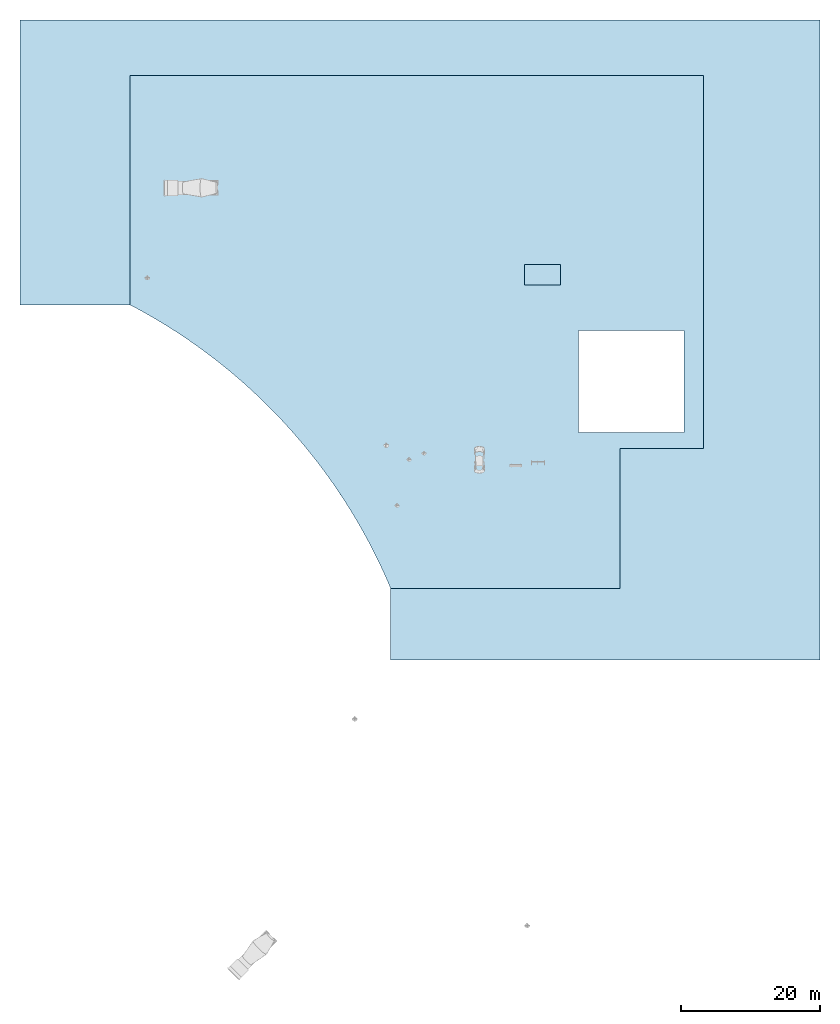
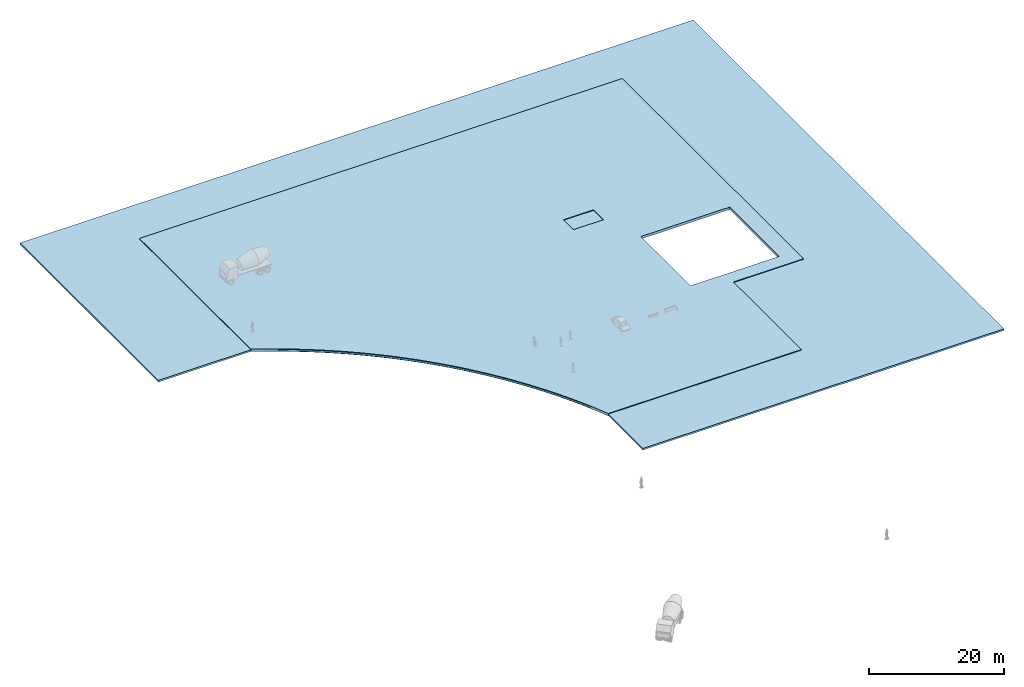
# One storey, part 1 of 6: 2 slabs, 2 openings.
"""IFC2X3 building model written with IfcOpenShell, lengths in millimetres."""

from ifc_helpers import new_model, entity, si_unit, converted_unit, derived_unit, direction, frame, frame_2d, origin, origin_2d_with_axis, place, context, subcontext, project, spatial, polyline, circle_curve, parameter, trimmed, segment, composite_curve, rectangle, outline, extrude, material, layer, layer_set, layer_usage, element, save


model = new_model("IFC2X3")

# Units and contexts
model_context = context("Model", 3, precision=0.01, world=origin(), true_north=direction((6.12303176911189e-17, 1.0)))
body_context = subcontext(model_context, "Body", "Model", "MODEL_VIEW")
ifc_project = project(units=[si_unit("LENGTHUNIT", "METRE", prefix="MILLI"), si_unit("AREAUNIT", "SQUARE_METRE"), si_unit("VOLUMEUNIT", "CUBIC_METRE"), converted_unit("PLANEANGLEUNIT", "DEGREE", entity("IfcRatioMeasure", 0.0174532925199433), si_unit("PLANEANGLEUNIT", "RADIAN"), dimensions=[0, 0, 0, 0, 0, 0, 0]), si_unit("MASSUNIT", "GRAM", prefix="KILO"), derived_unit("MASSDENSITYUNIT", [(si_unit("MASSUNIT", "GRAM", prefix="KILO"), 1), (si_unit("LENGTHUNIT", "METRE"), -3)]), si_unit("TIMEUNIT", "SECOND"), si_unit("FREQUENCYUNIT", "HERTZ"), si_unit("THERMODYNAMICTEMPERATUREUNIT", "DEGREE_CELSIUS"), derived_unit("THERMALTRANSMITTANCEUNIT", [(si_unit("MASSUNIT", "GRAM", prefix="KILO"), 1), (si_unit("THERMODYNAMICTEMPERATUREUNIT", "KELVIN"), -1), (si_unit("TIMEUNIT", "SECOND"), -3)]), derived_unit("VOLUMETRICFLOWRATEUNIT", [(si_unit("LENGTHUNIT", "METRE"), 3), (si_unit("TIMEUNIT", "SECOND"), -1)]), si_unit("ELECTRICCURRENTUNIT", "AMPERE"), si_unit("ELECTRICVOLTAGEUNIT", "VOLT"), si_unit("POWERUNIT", "WATT"), si_unit("FORCEUNIT", "NEWTON", prefix="KILO"), si_unit("ILLUMINANCEUNIT", "LUX"), si_unit("LUMINOUSFLUXUNIT", "LUMEN"), si_unit("LUMINOUSINTENSITYUNIT", "CANDELA"), derived_unit("USERDEFINED", [(si_unit("MASSUNIT", "GRAM", prefix="KILO"), -1), (si_unit("LENGTHUNIT", "METRE"), -2), (si_unit("TIMEUNIT", "SECOND"), 3), (si_unit("LUMINOUSFLUXUNIT", "LUMEN"), 1)]), derived_unit("LINEARVELOCITYUNIT", [(si_unit("LENGTHUNIT", "METRE"), 1), (si_unit("TIMEUNIT", "SECOND"), -1)]), si_unit("PRESSUREUNIT", "PASCAL"), derived_unit("USERDEFINED", [(si_unit("LENGTHUNIT", "METRE"), -2), (si_unit("MASSUNIT", "GRAM", prefix="KILO"), 1), (si_unit("TIMEUNIT", "SECOND"), -2)])], contexts=[model_context])

# Site, building, storey
site_placement = place(None, origin())
site = spatial("IfcSite", under=ifc_project, at=site_placement, Name="表面", CompositionType="ELEMENT")
building_placement = place(site_placement, origin())
building = spatial("IfcBuilding", under=site, at=building_placement, CompositionType="ELEMENT")
storey_placement = place(building_placement, frame((0.0, 0.0, -450.0)))
storey = spatial("IfcBuildingStorey", under=building, at=storey_placement, Name="室外地坪", CompositionType="ELEMENT", Elevation=-449.999999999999)

# Slab, openings
ifc_material_1 = material(Name="石材")
ifc_layer_1 = layer(ifc_material_1, 20.0)
ifc_material_2 = material(Name="默认楼板")
ifc_layer_2 = layer(ifc_material_2, 430.0)
ifc_layer_set_1 = layer_set([ifc_layer_1, ifc_layer_2], Name="楼板:室外广场")
ifc_layer_usage_1 = layer_usage(ifc_layer_set_1, "AXIS3", "POSITIVE", 0.0)
slab_1_placement = place(storey_placement, frame((-67230.2499126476, -52236.8684266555, -350.0)))
slab_1 = element("IfcSlab", 1, at=slab_1_placement, inside=storey, material=ifc_layer_usage_1, Name="楼板:室外广场", ObjectType="楼板:室外广场", PredefinedType="FLOOR", context=body_context, shape_type="SweptSolid", body=[
    extrude(outline(composite_curve([segment(polyline([(-41250.0, 19020.0), (-41250.0, -16780.0)]), True, "CONTINUOUS"), segment(polyline([(-41250.0, -16780.0), (-29250.0, -16780.0)]), True, "CONTINUOUS"), segment(polyline([(-29250.0, -16780.0), (-29250.0, -36900.0)]), True, "CONTINUOUS"), segment(polyline([(-29250.0, -36900.0), (3750.0, -36900.0)]), True, "CONTINUOUS"), segment(trimmed(circle_curve(frame_2d((79017.8671684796, -68446.5690886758), x_axis=(-1.0, 0.0)), 81611.5056187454), [parameter(297.566399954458)], [parameter(337.260272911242)], True, "PARAMETER"), False, "CONTINUOUS"), segment(polyline([(41250.0, 3900.0), (41250.0, 36900.0)]), True, "CONTINUOUS"), segment(polyline([(41250.0, 36900.0), (-41250.0, 36900.0)]), True, "CONTINUOUS"), segment(polyline([(-41250.0, 36900.0), (-41250.0, 19020.0)]), True, "CONTINUOUS")], self_intersect=False)), frame((41250.0, 36900.0, 450.0), z_axis=(0.0, 0.0, -1.0), x_axis=(-1.0, 0.0, 0.0)), (0.0, 0.0, 1.0), 450.0),
])
opening_1_placement = place(storey_placement, frame((-67230.2499126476, -52236.8684266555, -350.0)))
element("IfcOpeningElement", 2, at=opening_1_placement, cuts=slab_1, ObjectType="Opening", context=body_context, shape_type="SweptSolid", body=[
    extrude(rectangle(XDim=2950.97748632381, YDim=5139.99999999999, at=frame_2d((-18060.0, 8224.51125683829), x_axis=(0.0, -1.0))), frame((41250.0, 36900.0, 450.0), z_axis=(0.0, 0.0, -1.0), x_axis=(-1.0, 0.0, 0.0)), (0.0, 0.0, 1.0), 450.0),
])
opening_2_placement = place(slab_1_placement, frame((72095.0, 29786.5225136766, 450.0)))
element("IfcOpeningElement", 3, at=opening_2_placement, cuts=slab_1, Name="楼板:室外广场:2", ObjectType="Opening", context=body_context, shape_type="SweptSolid", body=[
    extrude(rectangle(XDim=14675.0, YDim=15170.0, at=origin_2d_with_axis()), frame((0.0, 0.0, 0.0), z_axis=(0.0, 0.0, -1.0), x_axis=(0.0, -1.0, 0.0)), (0.0, 0.0, 1.0), 450.0),
])

# Slab
ifc_material_3 = material(Name="<Unnamed>")
ifc_layer_3 = layer(ifc_material_3, 300.0)
ifc_layer_set_2 = layer_set([ifc_layer_3], Name="建筑地坪:建筑地坪 1")
ifc_layer_usage_2 = layer_usage(ifc_layer_set_2, "AXIS3", "POSITIVE", 0.0)
slab_2_placement = place(storey_placement, origin())
element("IfcSlab", 4, at=slab_2_placement, inside=storey, material=ifc_layer_usage_2, Name="建筑地坪:建筑地坪 1", ObjectType="建筑地坪:建筑地坪 1", PredefinedType="FLOOR", context=body_context, shape_type="SweptSolid", body=[
    extrude(outline(composite_curve([segment(polyline([(-64654.9293530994, -49666.5979579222), (50345.0706469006, -49666.5979579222)]), True, "CONTINUOUS"), segment(polyline([(50345.0706469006, -49666.5979579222), (50345.0706469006, -8711.2027227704)]), True, "CONTINUOUS"), segment(polyline([(50345.0706469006, -8711.2027227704), (34539.9058041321, -8711.20272277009)]), True, "CONTINUOUS"), segment(trimmed(circle_curve(frame_2d((72309.7800426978, 63637.2110994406), x_axis=(-1.0, 0.0)), 81614.069758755), [parameter(22.7403768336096)], [parameter(62.4329503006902)], True, "PARAMETER"), False, "CONTINUOUS"), segment(polyline([(-2960.09419586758, 32088.7972772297), (-2960.09419586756, 42333.4020420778)]), True, "CONTINUOUS"), segment(polyline([(-2960.09419586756, 42333.4020420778), (-64654.9293530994, 42333.4020420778)]), True, "CONTINUOUS"), segment(polyline([(-64654.9293530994, 42333.4020420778), (-64654.9293530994, -49666.5979579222)]), True, "CONTINUOUS")], self_intersect=False), holes=[polyline([(-45140.0941958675, -5040.2252364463), (-45140.0941958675, 9639.7747635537), (-29960.0941958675, 9639.7747635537), (-29960.0941958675, -5040.2252364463), (-45140.0941958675, -5040.2252364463)])]), frame((-32690.3441085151, -20148.0711494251, -300.0), z_axis=(0.0, 0.0, 1.0), x_axis=(-1.0, 0.0, 0.0)), (0.0, 0.0, 1.0), 300.0),
])

save(model, "model.ifc")
